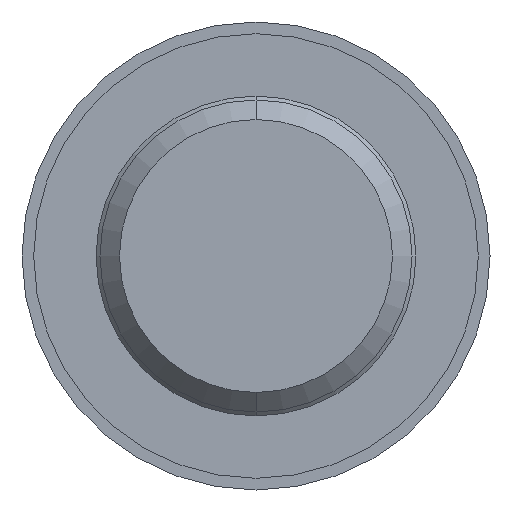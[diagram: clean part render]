
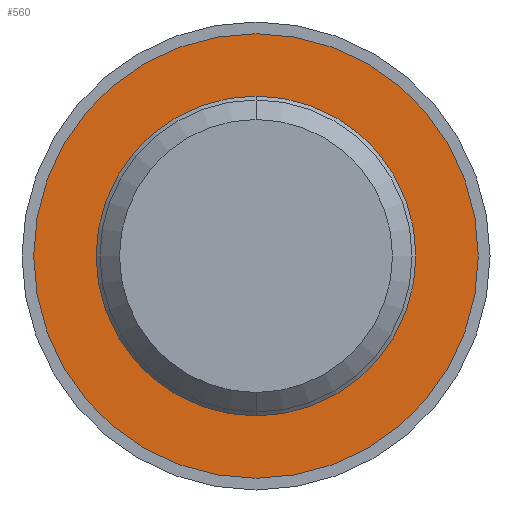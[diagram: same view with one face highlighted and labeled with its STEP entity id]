
A CAD part, front view. The second image highlights one B-rep face of the part: STEP entity #560.
In plain terms, the highlighted planar face has unit normal (0, -1, 0).
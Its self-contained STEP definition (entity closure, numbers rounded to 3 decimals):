
#24 = DIRECTION ( 'NONE',  ( 0., -1., 0. ) ) ;
#26 = DIRECTION ( 'NONE',  ( 0., -1., 0. ) ) ;
#28 = DIRECTION ( 'NONE',  ( 0., -1., 0. ) ) ;
#37 = EDGE_CURVE ( 'NONE', #610, #119, #274, .T. ) ;
#50 = DIRECTION ( 'NONE',  ( 0., -1., 0. ) ) ;
#55 = DIRECTION ( 'NONE',  ( 0., 0., -1. ) ) ;
#104 = CIRCLE ( 'NONE', #644, 4.1 ) ;
#106 = CARTESIAN_POINT ( 'NONE',  ( 0., 7., 0. ) ) ;
#119 = VERTEX_POINT ( 'NONE', #280 ) ;
#144 = CIRCLE ( 'NONE', #290, 5.7 ) ;
#176 = AXIS2_PLACEMENT_3D ( 'NONE', #106, #26, #848 ) ;
#218 = DIRECTION ( 'NONE',  ( 0., 0., -1. ) ) ;
#270 = EDGE_CURVE ( 'NONE', #665, #279, #104, .T. ) ;
#274 = CIRCLE ( 'NONE', #176, 5.7 ) ;
#279 = VERTEX_POINT ( 'NONE', #370 ) ;
#280 = CARTESIAN_POINT ( 'NONE',  ( 0., 7., -5.7 ) ) ;
#290 = AXIS2_PLACEMENT_3D ( 'NONE', #865, #50, #55 ) ;
#327 = FACE_OUTER_BOUND ( 'NONE', #408, .T. ) ;
#346 = CARTESIAN_POINT ( 'NONE',  ( 0., 7., 5.7 ) ) ;
#357 = PLANE ( 'NONE',  #837 ) ;
#370 = CARTESIAN_POINT ( 'NONE',  ( 0., 7., -4.1 ) ) ;
#400 = EDGE_LOOP ( 'NONE', ( #459, #761 ) ) ;
#408 = EDGE_LOOP ( 'NONE', ( #864, #540 ) ) ;
#409 = CIRCLE ( 'NONE', #954, 4.1 ) ;
#441 = CARTESIAN_POINT ( 'NONE',  ( 0., 7., 0. ) ) ;
#446 = DIRECTION ( 'NONE',  ( 0., -1., 0. ) ) ;
#459 = ORIENTED_EDGE ( 'NONE', *, *, #270, .F. ) ;
#473 = CARTESIAN_POINT ( 'NONE',  ( 0., 7., 0. ) ) ;
#540 = ORIENTED_EDGE ( 'NONE', *, *, #951, .T. ) ;
#560 = ADVANCED_FACE ( 'NONE', ( #327, #774 ), #357, .T. ) ;
#610 = VERTEX_POINT ( 'NONE', #346 ) ;
#611 = DIRECTION ( 'NONE',  ( 0., 0., -1. ) ) ;
#644 = AXIS2_PLACEMENT_3D ( 'NONE', #441, #446, #218 ) ;
#656 = DIRECTION ( 'NONE',  ( 0., 0., -1. ) ) ;
#665 = VERTEX_POINT ( 'NONE', #739 ) ;
#739 = CARTESIAN_POINT ( 'NONE',  ( 0., 7., 4.1 ) ) ;
#761 = ORIENTED_EDGE ( 'NONE', *, *, #846, .F. ) ;
#774 = FACE_BOUND ( 'NONE', #400, .T. ) ;
#787 = CARTESIAN_POINT ( 'NONE',  ( 0., 7., 0. ) ) ;
#837 = AXIS2_PLACEMENT_3D ( 'NONE', #787, #28, #656 ) ;
#846 = EDGE_CURVE ( 'NONE', #279, #665, #409, .T. ) ;
#848 = DIRECTION ( 'NONE',  ( 0., 0., -1. ) ) ;
#864 = ORIENTED_EDGE ( 'NONE', *, *, #37, .T. ) ;
#865 = CARTESIAN_POINT ( 'NONE',  ( 0., 7., 0. ) ) ;
#951 = EDGE_CURVE ( 'NONE', #119, #610, #144, .T. ) ;
#954 = AXIS2_PLACEMENT_3D ( 'NONE', #473, #24, #611 ) ;
